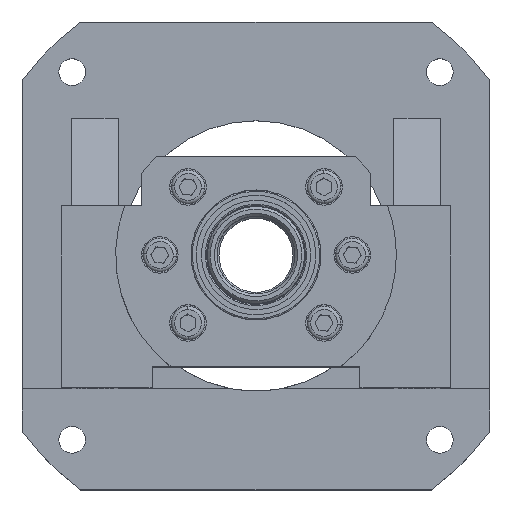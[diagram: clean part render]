
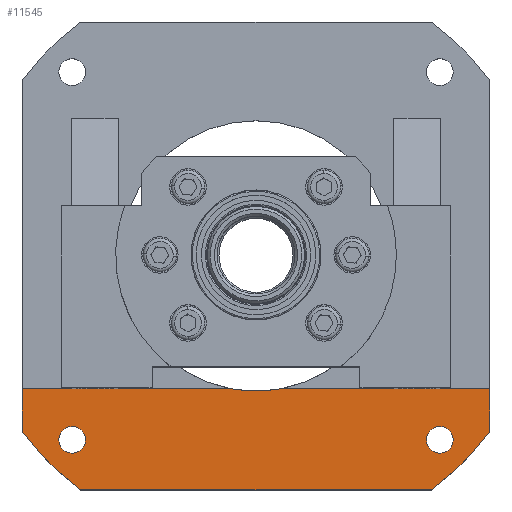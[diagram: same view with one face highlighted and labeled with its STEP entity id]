
A CAD part, top view. The second image highlights one B-rep face of the part: STEP entity #11545.
In plain terms, the highlighted planar face has unit normal (0, 0, 1).
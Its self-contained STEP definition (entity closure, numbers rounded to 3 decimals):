
#88 = DIRECTION ( 'NONE',  ( 1., 0., 0. ) ) ;
#138 = VERTEX_POINT ( 'NONE', #3565 ) ;
#258 = EDGE_CURVE ( 'NONE', #8630, #886, #1217, .T. ) ;
#321 = DIRECTION ( 'NONE',  ( 0., 0., 1. ) ) ;
#434 = ORIENTED_EDGE ( 'NONE', *, *, #9251, .F. ) ;
#554 = DIRECTION ( 'NONE',  ( 1., 0., 0. ) ) ;
#886 = VERTEX_POINT ( 'NONE', #7134 ) ;
#1014 = AXIS2_PLACEMENT_3D ( 'NONE', #9018, #10065, #4423 ) ;
#1217 = CIRCLE ( 'NONE', #11781, 52. ) ;
#1228 = CARTESIAN_POINT ( 'NONE',  ( -67.5, -90., 21. ) ) ;
#1338 = CARTESIAN_POINT ( 'NONE',  ( 90., -67.5, 21. ) ) ;
#1534 = CIRCLE ( 'NONE', #3130, 112.5 ) ;
#1584 = VERTEX_POINT ( 'NONE', #8546 ) ;
#1644 = DIRECTION ( 'NONE',  ( 0., 0., 1. ) ) ;
#1749 = ORIENTED_EDGE ( 'NONE', *, *, #2363, .F. ) ;
#1785 = ORIENTED_EDGE ( 'NONE', *, *, #3878, .T. ) ;
#1913 = AXIS2_PLACEMENT_3D ( 'NONE', #11332, #5705, #88 ) ;
#1991 = VECTOR ( 'NONE', #7910, 1000. ) ;
#2107 = DIRECTION ( 'NONE',  ( 1., 0., 0. ) ) ;
#2154 = DIRECTION ( 'NONE',  ( 0., 0., -1. ) ) ;
#2212 = DIRECTION ( 'NONE',  ( 0., 0., 1. ) ) ;
#2262 = CARTESIAN_POINT ( 'NONE',  ( -91.047, -51.01, 21. ) ) ;
#2362 = EDGE_CURVE ( 'NONE', #10666, #5957, #11253, .T. ) ;
#2363 = EDGE_CURVE ( 'NONE', #2735, #138, #3175, .T. ) ;
#2460 = EDGE_CURVE ( 'NONE', #8780, #5101, #11669, .T. ) ;
#2668 = CARTESIAN_POINT ( 'NONE',  ( 0., 0., 21. ) ) ;
#2685 = LINE ( 'NONE', #2262, #7651 ) ;
#2735 = VERTEX_POINT ( 'NONE', #6014 ) ;
#3005 = CARTESIAN_POINT ( 'NONE',  ( 0., 0., 21. ) ) ;
#3130 = AXIS2_PLACEMENT_3D ( 'NONE', #7259, #1644, #8216 ) ;
#3175 = CIRCLE ( 'NONE', #12041, 5.15 ) ;
#3486 = PLANE ( 'NONE',  #1014 ) ;
#3565 = CARTESIAN_POINT ( 'NONE',  ( 75.861, -70.711, 21. ) ) ;
#3678 = CARTESIAN_POINT ( 'NONE',  ( -90., -51.01, 21. ) ) ;
#3859 = CARTESIAN_POINT ( 'NONE',  ( -70.711, -70.711, 21. ) ) ;
#3878 = EDGE_CURVE ( 'NONE', #5957, #8780, #1534, .T. ) ;
#3938 = DIRECTION ( 'NONE',  ( 1., 0., 0. ) ) ;
#4135 = CIRCLE ( 'NONE', #8985, 112.5 ) ;
#4139 = DIRECTION ( 'NONE',  ( 1., 0., 0. ) ) ;
#4361 = ORIENTED_EDGE ( 'NONE', *, *, #7183, .F. ) ;
#4423 = DIRECTION ( 'NONE',  ( 1., 0., 0. ) ) ;
#4593 = ORIENTED_EDGE ( 'NONE', *, *, #6068, .F. ) ;
#4801 = DIRECTION ( 'NONE',  ( 1., 0., 0. ) ) ;
#4998 = VERTEX_POINT ( 'NONE', #1338 ) ;
#5057 = EDGE_CURVE ( 'NONE', #4998, #6224, #10555, .T. ) ;
#5101 = VERTEX_POINT ( 'NONE', #10659 ) ;
#5127 = EDGE_LOOP ( 'NONE', ( #1749, #10387 ) ) ;
#5473 = FACE_BOUND ( 'NONE', #5127, .T. ) ;
#5536 = ORIENTED_EDGE ( 'NONE', *, *, #5057, .T. ) ;
#5697 = EDGE_LOOP ( 'NONE', ( #4593, #434 ) ) ;
#5705 = DIRECTION ( 'NONE',  ( 0., 0., 1. ) ) ;
#5761 = ORIENTED_EDGE ( 'NONE', *, *, #2460, .T. ) ;
#5840 = ORIENTED_EDGE ( 'NONE', *, *, #2362, .T. ) ;
#5924 = CARTESIAN_POINT ( 'NONE',  ( -70.711, -70.711, 21. ) ) ;
#5955 = ORIENTED_EDGE ( 'NONE', *, *, #258, .T. ) ;
#5957 = VERTEX_POINT ( 'NONE', #10294 ) ;
#6014 = CARTESIAN_POINT ( 'NONE',  ( 65.561, -70.711, 21. ) ) ;
#6068 = EDGE_CURVE ( 'NONE', #11412, #1584, #11907, .T. ) ;
#6093 = CARTESIAN_POINT ( 'NONE',  ( -90., -90., 21. ) ) ;
#6121 = EDGE_CURVE ( 'NONE', #5101, #4998, #4135, .T. ) ;
#6224 = VERTEX_POINT ( 'NONE', #11559 ) ;
#6284 = EDGE_CURVE ( 'NONE', #8630, #6224, #2685, .T. ) ;
#6321 = VECTOR ( 'NONE', #554, 1000. ) ;
#6457 = AXIS2_PLACEMENT_3D ( 'NONE', #3859, #10439, #4801 ) ;
#6870 = DIRECTION ( 'NONE',  ( 1., 0., 0. ) ) ;
#7134 = CARTESIAN_POINT ( 'NONE',  ( -10.099, -51.01, 21. ) ) ;
#7183 = EDGE_CURVE ( 'NONE', #10666, #886, #8814, .T. ) ;
#7259 = CARTESIAN_POINT ( 'NONE',  ( 0., 0., 21. ) ) ;
#7651 = VECTOR ( 'NONE', #4139, 1000. ) ;
#7657 = FACE_BOUND ( 'NONE', #5697, .T. ) ;
#7677 = ORIENTED_EDGE ( 'NONE', *, *, #6121, .T. ) ;
#7818 = CARTESIAN_POINT ( 'NONE',  ( 70.711, -70.711, 21. ) ) ;
#7855 = CARTESIAN_POINT ( 'NONE',  ( -75.861, -70.711, 21. ) ) ;
#7864 = CIRCLE ( 'NONE', #9944, 5.15 ) ;
#7910 = DIRECTION ( 'NONE',  ( 1., 0., 0. ) ) ;
#8023 = CARTESIAN_POINT ( 'NONE',  ( -91.047, -51.01, 21. ) ) ;
#8050 = EDGE_LOOP ( 'NONE', ( #4361, #5840, #1785, #5761, #7677, #5536, #11375, #5955 ) ) ;
#8216 = DIRECTION ( 'NONE',  ( 1., 0., 0. ) ) ;
#8546 = CARTESIAN_POINT ( 'NONE',  ( -65.561, -70.711, 21. ) ) ;
#8630 = VERTEX_POINT ( 'NONE', #11092 ) ;
#8770 = DIRECTION ( 'NONE',  ( 1., 0., 0. ) ) ;
#8780 = VERTEX_POINT ( 'NONE', #1228 ) ;
#8814 = LINE ( 'NONE', #8023, #6321 ) ;
#8985 = AXIS2_PLACEMENT_3D ( 'NONE', #3005, #9582, #3938 ) ;
#9018 = CARTESIAN_POINT ( 'NONE',  ( -104.626, -111., 21. ) ) ;
#9251 = EDGE_CURVE ( 'NONE', #1584, #11412, #7864, .T. ) ;
#9582 = DIRECTION ( 'NONE',  ( 0., 0., 1. ) ) ;
#9697 = EDGE_CURVE ( 'NONE', #138, #2735, #11821, .T. ) ;
#9888 = FACE_OUTER_BOUND ( 'NONE', #8050, .T. ) ;
#9944 = AXIS2_PLACEMENT_3D ( 'NONE', #5924, #321, #6870 ) ;
#10065 = DIRECTION ( 'NONE',  ( 0., 0., 1. ) ) ;
#10289 = VECTOR ( 'NONE', #11562, 1000. ) ;
#10294 = CARTESIAN_POINT ( 'NONE',  ( -90., -67.5, 21. ) ) ;
#10376 = VECTOR ( 'NONE', #11547, 1000. ) ;
#10386 = CARTESIAN_POINT ( 'NONE',  ( -90., 90., 21. ) ) ;
#10387 = ORIENTED_EDGE ( 'NONE', *, *, #9697, .F. ) ;
#10439 = DIRECTION ( 'NONE',  ( 0., 0., 1. ) ) ;
#10555 = LINE ( 'NONE', #10621, #10289 ) ;
#10621 = CARTESIAN_POINT ( 'NONE',  ( 90., 90., 21. ) ) ;
#10659 = CARTESIAN_POINT ( 'NONE',  ( 67.5, -90., 21. ) ) ;
#10666 = VERTEX_POINT ( 'NONE', #3678 ) ;
#11092 = CARTESIAN_POINT ( 'NONE',  ( 10.099, -51.01, 21. ) ) ;
#11253 = LINE ( 'NONE', #10386, #10376 ) ;
#11332 = CARTESIAN_POINT ( 'NONE',  ( 70.711, -70.711, 21. ) ) ;
#11375 = ORIENTED_EDGE ( 'NONE', *, *, #6284, .F. ) ;
#11412 = VERTEX_POINT ( 'NONE', #7855 ) ;
#11545 = ADVANCED_FACE ( 'NONE', ( #9888, #5473, #7657 ), #3486, .T. ) ;
#11547 = DIRECTION ( 'NONE',  ( 0., -1., 0. ) ) ;
#11559 = CARTESIAN_POINT ( 'NONE',  ( 90., -51.01, 21. ) ) ;
#11562 = DIRECTION ( 'NONE',  ( 0., 1., 0. ) ) ;
#11669 = LINE ( 'NONE', #6093, #1991 ) ;
#11781 = AXIS2_PLACEMENT_3D ( 'NONE', #2668, #2154, #2107 ) ;
#11821 = CIRCLE ( 'NONE', #1913, 5.15 ) ;
#11907 = CIRCLE ( 'NONE', #6457, 5.15 ) ;
#12041 = AXIS2_PLACEMENT_3D ( 'NONE', #7818, #2212, #8770 ) ;
